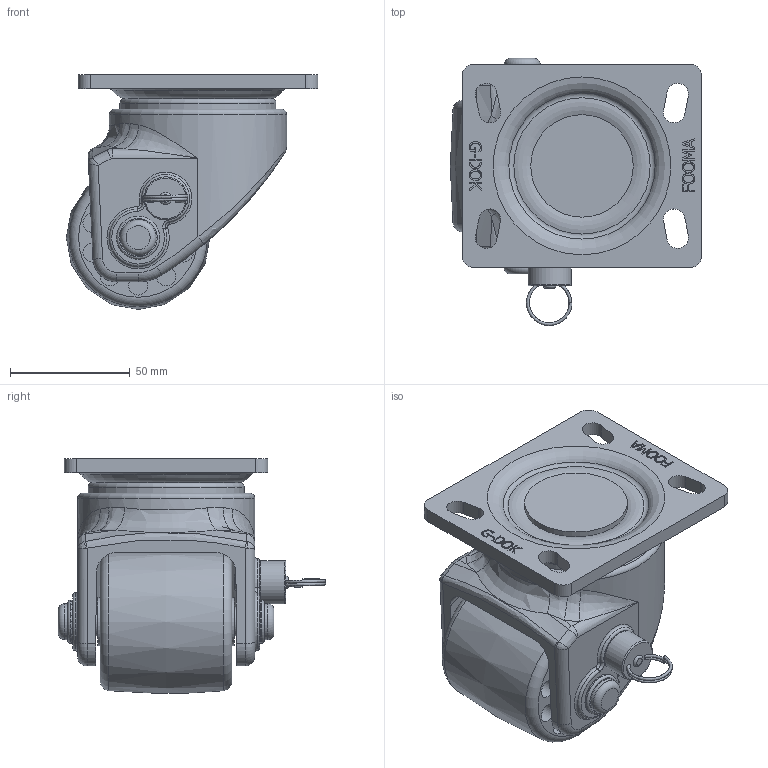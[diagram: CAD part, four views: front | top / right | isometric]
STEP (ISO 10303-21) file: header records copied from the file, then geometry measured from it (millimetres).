
FILE_DESCRIPTION(/* description */ (' '),/* implementation_level */ '2;1');
FILE_NAME(/* name */ 'E:\홈피용도면\홈페이지용3d\GLH-SERIES(PEU,PUS)\GLH-60-BSF-PEU.stp',/* time_stamp */ '2017-01-25T17:52:25+09:00',/* author */ ('Administrator'),/* organization */ (' '),/* preprocessor_version */ 'ST-DEVELOPER v16.5',/* originating_system */ 'Autodesk Inventor 2017',/* authorisation */ ' ');
FILE_SCHEMA (('AUTOMOTIVE_DESIGN { 1 0 10303 214 3 1 1 }'));
Length unit declared in the file: millimetre
Products named in the file (1): GLH-60-BSF-PEU
Bounding box: 105 x 111.61 x 98.12 mm (x, y, z)
Volume: 349329 mm3; surface area: 65334.3 mm2
Topology: 1 solids, 2 shells, 475 faces, 1163 edges, 743 vertices
Faces by surface type: plane 173, bspline 160, cylinder 64, torus 34, cone 24, sphere 20
Full cylindrical faces by diameter (mm): 7.8 x1, 8 x20, 11.95 x2, 12.2 x2, 12.676 x1, 13 x2, 15 x2, 18 x3, 20 x2, 42.8 x1, 65.14 x1, 74 x1
Entity records: 24080 total; most frequent: CARTESIAN_POINT 13828, ORIENTED_EDGE 2156, DIRECTION 1878, EDGE_CURVE 1078, AXIS2_PLACEMENT_3D 747, VERTEX_POINT 727, EDGE_LOOP 609, FACE_OUTER_BOUND 475
